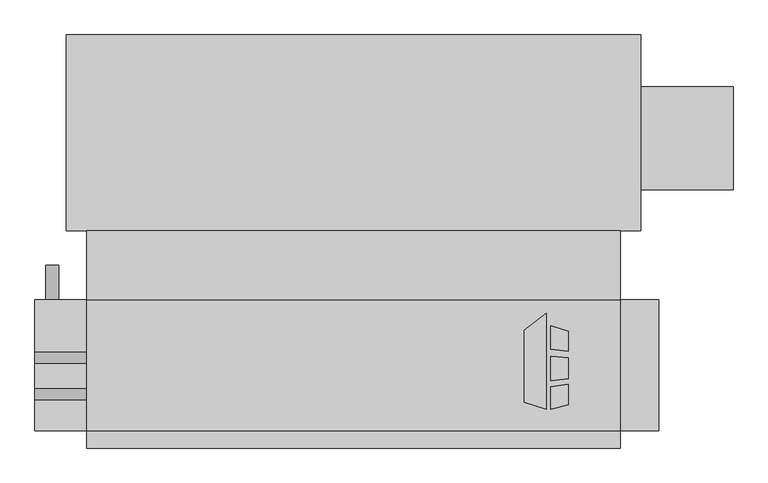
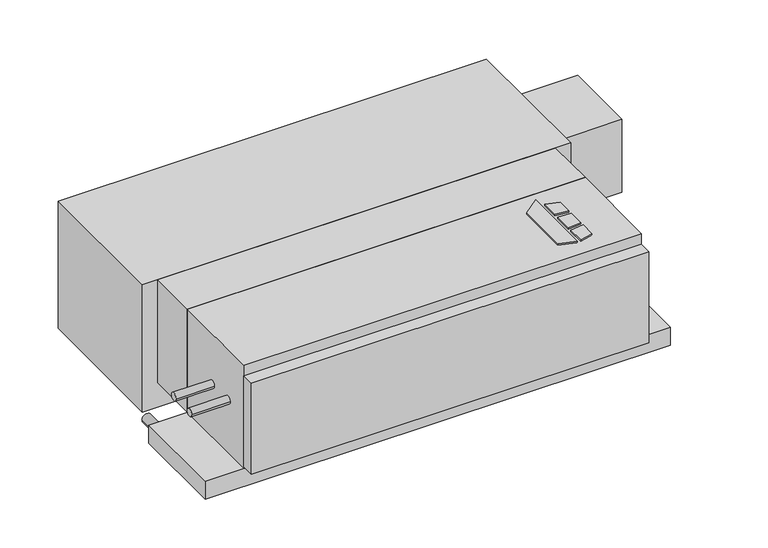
"""IFC4 building model written with IfcOpenShell, lengths in millimetres: proxy geometry, Concealed_Horizontal_Fan_Coil_Unit_With_Plenum_-_CPY_-_IEC_-_2-Pipe_Cool-EHeat_LH_2022 : Size 06 - 277v/60Hz/1Ph - 4 Row 6.0kW."""

from ifc_helpers import new_model, si_unit, point, frame, frame_2d, origin, origin_with_axes, place, context, project, spatial, polyline, circle_curve, trimmed, segment, composite_curve, outline, extrude, source, transform, mapped, element, save


def mechanical_equipment_0631663f(model_context):
    return source(origin(), model_context, "Body", "SweptSolid", [
        extrude(outline(polyline([(404.5019761, -186.6953476), (437.0602728, -161.2580184), (437.0602728, -303.2125), (404.5019761, -292.9929201), (404.5019761, -186.6953476)])), origin_with_axes(), (0.0, 0.0, 1.0), 3.175),
        extrude(outline(polyline([(443.8186058, -214.567352), (443.8186058, -180.0874379), (469.9, -188.2740115), (469.9, -217.7697446), (443.8186058, -214.567352)])), origin_with_axes(), (0.0, 0.0, 1.0), 3.175),
        extrude(outline(polyline([(469.9, -296.2240115), (443.8186058, -303.2125), (443.8186058, -269.9911996), (469.9, -266.4493564), (469.9, -296.2240115)])), origin_with_axes(), (0.0, 0.0, 1.0), 3.175),
        extrude(outline(polyline([(469.9, -226.8513277), (469.9, -258.101483), (443.8186058, -260.842748), (443.8186058, -224.9850378), (469.9, -226.8513277)])), origin_with_axes(), (0.0, 0.0, 1.0), 3.175),
        extrude(outline(composite_curve([segment(trimmed(circle_curve(frame_2d((-280.9875, -104.775)), 7.9375), [point((-288.925, -104.775))], [point((-273.05, -104.775))], False, "CARTESIAN"), True, "CONTINUOUS"), segment(trimmed(circle_curve(frame_2d((-280.9875, -104.775)), 7.9375), [point((-273.05, -104.775))], [point((-288.925, -104.775))], False, "CARTESIAN"), True, "CONTINUOUS")], self_intersect=False)), frame((-317.5, 0.0, 0.0), z_axis=(1.0, 0.0, 0.0), x_axis=(0.0, 1.0, 0.0)), (0.0, 0.0, 1.0), 76.2),
        extrude(outline(composite_curve([segment(trimmed(circle_curve(frame_2d((-227.0125, -104.775)), 7.9375), [point((-234.95, -104.775))], [point((-219.075, -104.775))], False, "CARTESIAN"), True, "CONTINUOUS"), segment(trimmed(circle_curve(frame_2d((-227.0125, -104.775)), 7.9375), [point((-219.075, -104.775))], [point((-234.95, -104.775))], False, "CARTESIAN"), True, "CONTINUOUS")], self_intersect=False)), frame((-317.5, 0.0, 0.0), z_axis=(1.0, 0.0, 0.0), x_axis=(0.0, 1.0, 0.0)), (0.0, 0.0, 1.0), 76.2),
        extrude(outline(composite_curve([segment(trimmed(circle_curve(frame_2d((-241.3, -292.1)), 9.525), [point((-241.3, -301.625))], [point((-241.3, -282.575))], False, "CARTESIAN"), True, "CONTINUOUS"), segment(trimmed(circle_curve(frame_2d((-241.3, -292.1)), 9.525), [point((-241.3, -282.575))], [point((-241.3, -301.625))], False, "CARTESIAN"), True, "CONTINUOUS")], self_intersect=False)), frame((0.0, -141.2875, 0.0), z_axis=(0.0, 1.0, 0.0), x_axis=(0.0, 0.0, 1.0)), (0.0, 0.0, 1.0), 50.8),
        extrude(outline(polyline([(-241.3, -39.6875), (546.1, -39.6875), (546.1, -141.2875), (-241.3, -141.2875), (-241.3, -39.6875)])), frame((0.0, 0.0, -215.9), z_axis=(0.0, 0.0, 1.0), x_axis=(1.0, 0.0, 0.0)), (0.0, 0.0, 1.0), 215.9),
        extrude(outline(polyline([(546.1, -360.3625), (-241.3, -360.3625), (-241.3, -334.9625), (546.1, -334.9625), (546.1, -360.3625)])), frame((0.0, 0.0, -212.725), z_axis=(0.0, 0.0, 1.0), x_axis=(1.0, 0.0, 0.0)), (0.0, 0.0, 1.0), 190.5),
        extrude(outline(polyline([(712.7875, 173.0375), (712.7875, 20.6375), (576.2625, 20.6375), (576.2625, 173.0375), (712.7875, 173.0375)])), frame((0.0, 0.0, -187.325), z_axis=(0.0, 0.0, 1.0), x_axis=(1.0, 0.0, 0.0)), (0.0, 0.0, 1.0), 152.4),
        extrude(outline(polyline([(-271.4625, 249.2375), (576.2625, 249.2375), (576.2625, -39.6875), (-271.4625, -39.6875), (-271.4625, 249.2375)])), frame((0.0, 0.0, -266.7), z_axis=(0.0, 0.0, 1.0), x_axis=(1.0, 0.0, 0.0)), (0.0, 0.0, 1.0), 266.7),
        extrude(outline(polyline([(546.1, -141.2875), (546.1, -334.9625), (-241.3, -334.9625), (-241.3, -141.2875), (546.1, -141.2875)])), frame((0.0, 0.0, -215.9), z_axis=(0.0, 0.0, 1.0), x_axis=(1.0, 0.0, 0.0)), (0.0, 0.0, 1.0), 215.9),
        extrude(outline(polyline([(603.25, -141.2875), (603.25, -334.9625), (-317.5, -334.9625), (-317.5, -141.2875), (603.25, -141.2875)])), frame((0.0, 0.0, -254.0), z_axis=(0.0, 0.0, 1.0), x_axis=(1.0, 0.0, 0.0)), (0.0, 0.0, 1.0), 38.1),
    ])


if __name__ == "__main__":
    model = new_model("IFC4")
    model_context = context("Model", 3, world=origin())
    ifc_project = project(units=[si_unit("LENGTHUNIT", "METRE", prefix="MILLI")], contexts=[model_context])
    site = spatial("IfcSite", under=ifc_project)
    building = spatial("IfcBuilding", under=site)
    placement = place(None, origin())
    mechanical_equipment_shape = mechanical_equipment_0631663f(model_context)
    element("IfcBuildingElementProxy", 1, Name="Concealed_Horizontal_Fan_Coil_Unit_With_Plenum_-_CPY_-_IEC_-_2-Pipe_Cool-EHeat_LH_2022 : Size 06 - 277v/60Hz/1Ph - 4 Row 6.0kW", ObjectType="Concealed_Horizontal_Fan_Coil_Unit_With_Plenum_-_CPY_-_IEC_-_2-Pipe_Cool-EHeat_LH_2022 : Size 06 - 277v/60Hz/1Ph - 4 Row 6.0kW", at=placement, inside=building, context=model_context, shape_type="MappedRepresentation", body=[
        mapped(mechanical_equipment_shape, transform((0.0, 0.0, 0.0), x_axis=(1.0, 0.0, 0.0), y_axis=(0.0, 1.0, 0.0), z_axis=(0.0, 0.0, 1.0))),
    ])
    save(model, "model.ifc")
